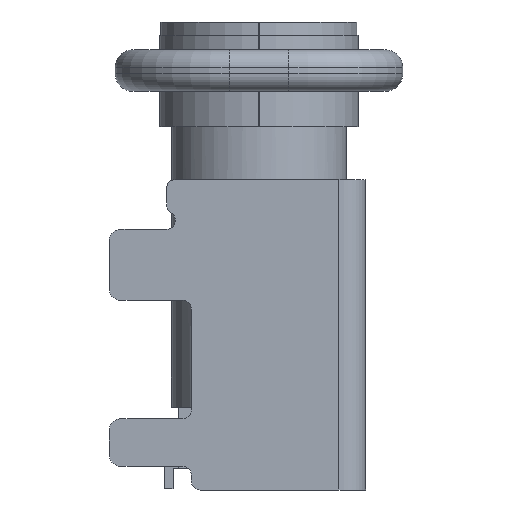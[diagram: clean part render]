
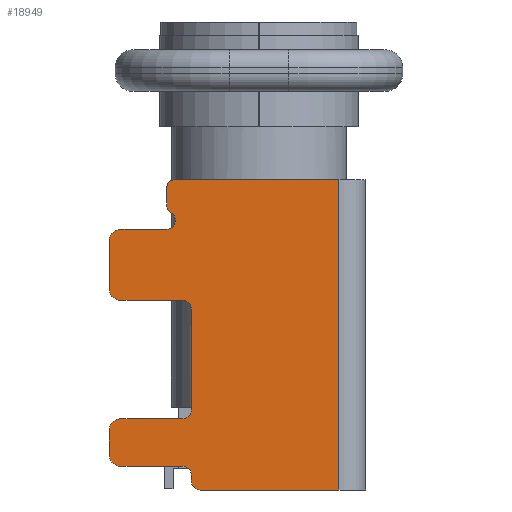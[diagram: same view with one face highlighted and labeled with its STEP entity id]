
A CAD part, left-side view. The second image highlights one B-rep face of the part: STEP entity #18949.
In plain terms, the highlighted planar face has unit normal (-1, 0, 0).
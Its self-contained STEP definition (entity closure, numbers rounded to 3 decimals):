
#17237=DIRECTION('',(0.,-1.,0.));
#17238=VECTOR('',#17237,2.34);
#17239=CARTESIAN_POINT('',(-4.542,2.293,
2.991));
#17240=LINE('',#17239,#17238);
#17298=DIRECTION('',(0.,1.,0.));
#17299=VECTOR('',#17298,2.76);
#17300=CARTESIAN_POINT('',(-4.542,-0.047,
8.231));
#17301=LINE('',#17300,#17299);
#17410=DIRECTION('',(0.,0.,1.));
#17411=VECTOR('',#17410,0.4);
#17412=CARTESIAN_POINT('',(-4.542,3.833,
3.591));
#17413=LINE('',#17412,#17411);
#17414=CARTESIAN_POINT('',(-4.542,3.633,
3.991));
#17415=DIRECTION('',(1.,0.,0.));
#17416=DIRECTION('',(0.,1.,0.));
#17417=AXIS2_PLACEMENT_3D('',#17414,#17415,#17416);
#17419=CARTESIAN_POINT('',(-4.542,2.593,
4.341));
#17420=DIRECTION('',(-1.,0.,0.));
#17421=DIRECTION('',(0.,0.,-1.));
#17422=AXIS2_PLACEMENT_3D('',#17419,#17420,#17421);
#17424=DIRECTION('',(0.,0.,1.));
#17425=VECTOR('',#17424,1.7);
#17426=CARTESIAN_POINT('',(-4.542,2.443,
4.341));
#17427=LINE('',#17426,#17425);
#17428=CARTESIAN_POINT('',(-4.542,2.593,6.041));
#17429=DIRECTION('',(-1.,0.,0.));
#17430=DIRECTION('',(0.,-1.,0.));
#17431=AXIS2_PLACEMENT_3D('',#17428,#17429,#17430);
#17433=DIRECTION('',(0.,1.,0.));
#17434=VECTOR('',#17433,1.04);
#17435=CARTESIAN_POINT('',(-4.542,2.593,
6.191));
#17436=LINE('',#17435,#17434);
#17437=CARTESIAN_POINT('',(-4.542,3.633,6.391));
#17438=DIRECTION('',(1.,0.,0.));
#17439=DIRECTION('',(0.,0.,-1.));
#17440=AXIS2_PLACEMENT_3D('',#17437,#17438,#17439);
#17442=DIRECTION('',(0.,0.,1.));
#17443=VECTOR('',#17442,0.8);
#17444=CARTESIAN_POINT('',(-4.542,3.833,6.391));
#17445=LINE('',#17444,#17443);
#17446=CARTESIAN_POINT('',(-4.542,3.633,
7.191));
#17447=DIRECTION('',(1.,0.,0.));
#17448=DIRECTION('',(0.,1.,0.));
#17449=AXIS2_PLACEMENT_3D('',#17446,#17447,#17448);
#17451=DIRECTION('',(0.,-1.,0.));
#17452=VECTOR('',#17451,0.77);
#17453=CARTESIAN_POINT('',(-4.542,3.633,
7.391));
#17454=LINE('',#17453,#17452);
#17455=CARTESIAN_POINT('',(-4.542,2.863,
7.541));
#17456=DIRECTION('',(-1.,0.,0.));
#17457=DIRECTION('',(0.,0.,-1.));
#17458=AXIS2_PLACEMENT_3D('',#17455,#17456,#17457);
#17460=CARTESIAN_POINT('',(-4.542,2.863,
7.541));
#17461=DIRECTION('',(-1.,0.,0.));
#17462=DIRECTION('',(0.,-1.,0.));
#17463=AXIS2_PLACEMENT_3D('',#17460,#17461,#17462);
#17465=CARTESIAN_POINT('',(-4.542,2.713,
7.801));
#17466=DIRECTION('',(1.,0.,0.));
#17467=DIRECTION('',(0.,0.5,-0.866));
#17468=AXIS2_PLACEMENT_3D('',#17465,#17466,#17467);
#17470=DIRECTION('',(0.,0.,1.));
#17471=VECTOR('',#17470,0.279);
#17472=CARTESIAN_POINT('',(-4.542,2.863,
7.801));
#17473=LINE('',#17472,#17471);
#17474=CARTESIAN_POINT('',(-4.542,2.713,
8.081));
#17475=DIRECTION('',(1.,0.,0.));
#17476=DIRECTION('',(0.,1.,0.));
#17477=AXIS2_PLACEMENT_3D('',#17474,#17475,#17476);
#17479=CARTESIAN_POINT('',(-4.542,2.293,
3.141));
#17480=DIRECTION('',(1.,0.,0.));
#17481=DIRECTION('',(0.,0.,-1.));
#17482=AXIS2_PLACEMENT_3D('',#17479,#17480,#17481);
#17484=DIRECTION('',(0.,0.,1.));
#17485=VECTOR('',#17484,0.101);
#17486=CARTESIAN_POINT('',(-4.542,2.443,
3.141));
#17487=LINE('',#17486,#17485);
#17488=CARTESIAN_POINT('',(-4.542,2.593,
3.241));
#17489=DIRECTION('',(-1.,0.,0.));
#17490=DIRECTION('',(0.,-1.,0.));
#17491=AXIS2_PLACEMENT_3D('',#17488,#17489,#17490);
#17493=CARTESIAN_POINT('',(-4.542,3.633,
3.591));
#17494=DIRECTION('',(1.,0.,0.));
#17495=DIRECTION('',(0.,0.,-1.));
#17496=AXIS2_PLACEMENT_3D('',#17493,#17494,#17495);
#17506=DIRECTION('',(0.,1.,0.));
#17507=VECTOR('',#17506,1.04);
#17508=CARTESIAN_POINT('',(-4.542,2.593,
4.191));
#17509=LINE('',#17508,#17507);
#17562=DIRECTION('',(0.,-1.,0.));
#17563=VECTOR('',#17562,1.04);
#17564=CARTESIAN_POINT('',(-4.542,3.633,
3.391));
#17565=LINE('',#17564,#17563);
#17582=DIRECTION('',(0.,0.,1.));
#17583=VECTOR('',#17582,5.24);
#17584=CARTESIAN_POINT('',(-4.542,-0.047,
2.991));
#17585=LINE('',#17584,#17583);
#18270=CARTESIAN_POINT('',(-4.542,2.293,
2.991));
#18271=VERTEX_POINT('',#18270);
#18272=CARTESIAN_POINT('',(-4.542,-0.047,
2.991));
#18273=VERTEX_POINT('',#18272);
#18286=CARTESIAN_POINT('',(-4.542,-0.047,
8.231));
#18287=VERTEX_POINT('',#18286);
#18288=CARTESIAN_POINT('',(-4.542,2.713,
8.231));
#18289=VERTEX_POINT('',#18288);
#18330=CARTESIAN_POINT('',(-4.542,2.863,
8.081));
#18331=VERTEX_POINT('',#18330);
#18332=CARTESIAN_POINT('',(-4.542,3.833,
3.591));
#18333=CARTESIAN_POINT('',(-4.542,3.833,
3.991));
#18334=VERTEX_POINT('',#18332);
#18335=VERTEX_POINT('',#18333);
#18336=CARTESIAN_POINT('',(-4.542,3.633,
4.191));
#18337=VERTEX_POINT('',#18336);
#18338=CARTESIAN_POINT('',(-4.542,2.593,
4.191));
#18339=VERTEX_POINT('',#18338);
#18340=CARTESIAN_POINT('',(-4.542,2.443,
4.341));
#18341=VERTEX_POINT('',#18340);
#18342=CARTESIAN_POINT('',(-4.542,2.443,
6.041));
#18343=VERTEX_POINT('',#18342);
#18344=CARTESIAN_POINT('',(-4.542,2.593,6.191));
#18345=VERTEX_POINT('',#18344);
#18346=CARTESIAN_POINT('',(-4.542,3.633,
6.191));
#18347=VERTEX_POINT('',#18346);
#18348=CARTESIAN_POINT('',(-4.542,3.833,6.391));
#18349=VERTEX_POINT('',#18348);
#18350=CARTESIAN_POINT('',(-4.542,3.833,
7.191));
#18351=VERTEX_POINT('',#18350);
#18352=CARTESIAN_POINT('',(-4.542,3.633,
7.391));
#18353=VERTEX_POINT('',#18352);
#18354=CARTESIAN_POINT('',(-4.542,2.863,
7.391));
#18355=VERTEX_POINT('',#18354);
#18356=CARTESIAN_POINT('',(-4.542,2.713,
7.541));
#18357=CARTESIAN_POINT('',(-4.542,2.788,
7.671));
#18358=VERTEX_POINT('',#18356);
#18359=VERTEX_POINT('',#18357);
#18360=CARTESIAN_POINT('',(-4.542,2.863,
7.801));
#18361=VERTEX_POINT('',#18360);
#18362=CARTESIAN_POINT('',(-4.542,2.443,
3.141));
#18363=VERTEX_POINT('',#18362);
#18364=CARTESIAN_POINT('',(-4.542,2.443,
3.241));
#18365=VERTEX_POINT('',#18364);
#18366=CARTESIAN_POINT('',(-4.542,2.593,
3.391));
#18367=VERTEX_POINT('',#18366);
#18368=CARTESIAN_POINT('',(-4.542,3.633,
3.391));
#18369=VERTEX_POINT('',#18368);
#18897=CARTESIAN_POINT('',(-4.542,1.693,
7.503));
#18898=DIRECTION('',(1.,0.,0.));
#18899=DIRECTION('',(0.,1.,0.));
#18900=AXIS2_PLACEMENT_3D('',#18897,#18898,#18899);
#18901=PLANE('',#18900);
#18903=ORIENTED_EDGE('',*,*,#18902,.T.);
#18905=ORIENTED_EDGE('',*,*,#18904,.T.);
#18907=ORIENTED_EDGE('',*,*,#18906,.F.);
#18909=ORIENTED_EDGE('',*,*,#18908,.T.);
#18911=ORIENTED_EDGE('',*,*,#18910,.T.);
#18913=ORIENTED_EDGE('',*,*,#18912,.T.);
#18915=ORIENTED_EDGE('',*,*,#18914,.T.);
#18917=ORIENTED_EDGE('',*,*,#18916,.T.);
#18919=ORIENTED_EDGE('',*,*,#18918,.T.);
#18921=ORIENTED_EDGE('',*,*,#18920,.T.);
#18923=ORIENTED_EDGE('',*,*,#18922,.T.);
#18925=ORIENTED_EDGE('',*,*,#18924,.T.);
#18927=ORIENTED_EDGE('',*,*,#18926,.T.);
#18929=ORIENTED_EDGE('',*,*,#18928,.T.);
#18931=ORIENTED_EDGE('',*,*,#18930,.T.);
#18932=ORIENTED_EDGE('',*,*,#18890,.T.);
#18933=ORIENTED_EDGE('',*,*,#18823,.F.);
#18935=ORIENTED_EDGE('',*,*,#18934,.F.);
#18936=ORIENTED_EDGE('',*,*,#18778,.F.);
#18938=ORIENTED_EDGE('',*,*,#18937,.T.);
#18940=ORIENTED_EDGE('',*,*,#18939,.T.);
#18942=ORIENTED_EDGE('',*,*,#18941,.T.);
#18944=ORIENTED_EDGE('',*,*,#18943,.F.);
#18946=ORIENTED_EDGE('',*,*,#18945,.T.);
#18947=EDGE_LOOP('',(#18903,#18905,#18907,#18909,#18911,#18913,#18915,#18917,
#18919,#18921,#18923,#18925,#18927,#18929,#18931,#18932,#18933,#18935,#18936,
#18938,#18940,#18942,#18944,#18946));
#18948=FACE_OUTER_BOUND('',#18947,.F.);
#18949=ADVANCED_FACE('',(#18948),#18901,.F.);
#17418=CIRCLE('',#17417,0.2);
#17423=CIRCLE('',#17422,0.15);
#17432=CIRCLE('',#17431,0.15);
#17441=CIRCLE('',#17440,0.2);
#17450=CIRCLE('',#17449,0.2);
#17459=CIRCLE('',#17458,0.15);
#17464=CIRCLE('',#17463,0.15);
#17469=CIRCLE('',#17468,0.15);
#17478=CIRCLE('',#17477,0.15);
#17483=CIRCLE('',#17482,0.15);
#17492=CIRCLE('',#17491,0.15);
#17497=CIRCLE('',#17496,0.2);
#18778=EDGE_CURVE('',#18271,#18273,#17240,.T.);
#18823=EDGE_CURVE('',#18287,#18289,#17301,.T.);
#18890=EDGE_CURVE('',#18331,#18289,#17478,.T.);
#18902=EDGE_CURVE('',#18334,#18335,#17413,.T.);
#18904=EDGE_CURVE('',#18335,#18337,#17418,.T.);
#18906=EDGE_CURVE('',#18339,#18337,#17509,.T.);
#18908=EDGE_CURVE('',#18339,#18341,#17423,.T.);
#18910=EDGE_CURVE('',#18341,#18343,#17427,.T.);
#18912=EDGE_CURVE('',#18343,#18345,#17432,.T.);
#18914=EDGE_CURVE('',#18345,#18347,#17436,.T.);
#18916=EDGE_CURVE('',#18347,#18349,#17441,.T.);
#18918=EDGE_CURVE('',#18349,#18351,#17445,.T.);
#18920=EDGE_CURVE('',#18351,#18353,#17450,.T.);
#18922=EDGE_CURVE('',#18353,#18355,#17454,.T.);
#18924=EDGE_CURVE('',#18355,#18358,#17459,.T.);
#18926=EDGE_CURVE('',#18358,#18359,#17464,.T.);
#18928=EDGE_CURVE('',#18359,#18361,#17469,.T.);
#18930=EDGE_CURVE('',#18361,#18331,#17473,.T.);
#18934=EDGE_CURVE('',#18273,#18287,#17585,.T.);
#18937=EDGE_CURVE('',#18271,#18363,#17483,.T.);
#18939=EDGE_CURVE('',#18363,#18365,#17487,.T.);
#18941=EDGE_CURVE('',#18365,#18367,#17492,.T.);
#18943=EDGE_CURVE('',#18369,#18367,#17565,.T.);
#18945=EDGE_CURVE('',#18369,#18334,#17497,.T.);
